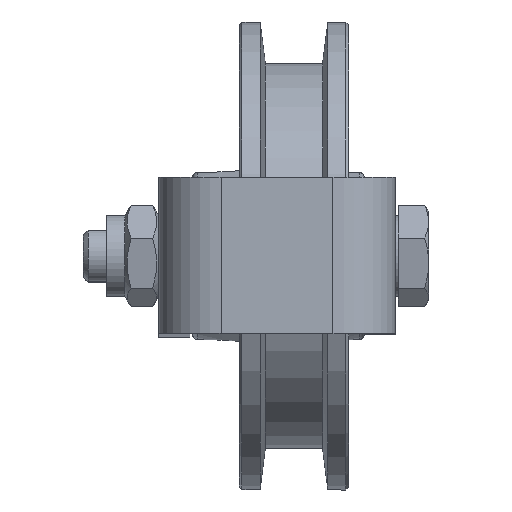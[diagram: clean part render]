
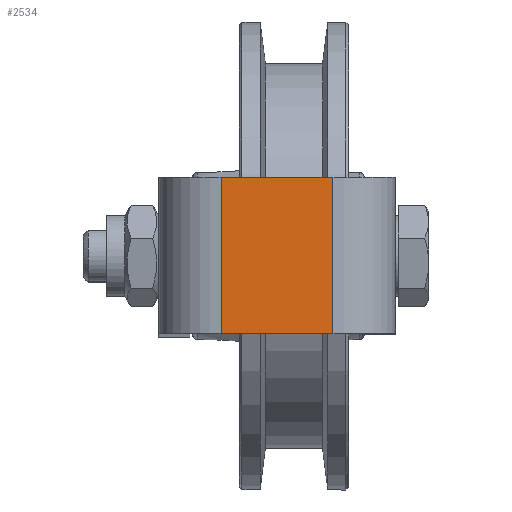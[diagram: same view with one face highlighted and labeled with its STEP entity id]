
A CAD part, top view. The second image highlights one B-rep face of the part: STEP entity #2534.
In plain terms, the highlighted planar face has unit normal (0, 0, 1) as drawn and (0, 1, 0) by its records, which use the part's own axes.
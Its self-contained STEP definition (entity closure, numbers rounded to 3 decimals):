
#295=PLANE('',#2838);
#373=FACE_OUTER_BOUND('',#541,.T.);
#541=EDGE_LOOP('',(#1877,#1878,#1879,#1880));
#732=LINE('',#3848,#904);
#740=LINE('',#3869,#912);
#743=LINE('',#3876,#915);
#745=LINE('',#3879,#917);
#904=VECTOR('',#3153,10.);
#912=VECTOR('',#3179,10.);
#915=VECTOR('',#3186,10.);
#917=VECTOR('',#3190,10.);
#1188=VERTEX_POINT('',#3845);
#1189=VERTEX_POINT('',#3847);
#1193=VERTEX_POINT('',#3867);
#1195=VERTEX_POINT('',#3875);
#1434=EDGE_CURVE('',#1189,#1188,#732,.T.);
#1445=EDGE_CURVE('',#1193,#1188,#740,.T.);
#1448=EDGE_CURVE('',#1189,#1195,#743,.T.);
#1450=EDGE_CURVE('',#1193,#1195,#745,.T.);
#1877=ORIENTED_EDGE('',*,*,#1434,.T.);
#1878=ORIENTED_EDGE('',*,*,#1445,.F.);
#1879=ORIENTED_EDGE('',*,*,#1450,.T.);
#1880=ORIENTED_EDGE('',*,*,#1448,.F.);
#2534=ADVANCED_FACE('',(#373),#295,.F.);
#2838=AXIS2_PLACEMENT_3D('',#3888,#3204,#3205);
#3153=DIRECTION('',(1.,0.,0.));
#3179=DIRECTION('',(0.,0.,1.));
#3186=DIRECTION('',(0.,0.,-1.));
#3190=DIRECTION('',(-1.,0.,0.));
#3204=DIRECTION('center_axis',(0.,-1.,0.));
#3205=DIRECTION('ref_axis',(1.,0.,0.));
#3845=CARTESIAN_POINT('',(15.,68.,33.5));
#3847=CARTESIAN_POINT('',(-15.,68.,33.5));
#3848=CARTESIAN_POINT('',(-7.5,68.,33.5));
#3867=CARTESIAN_POINT('',(15.,68.,12.));
#3869=CARTESIAN_POINT('',(15.,68.,12.));
#3875=CARTESIAN_POINT('',(-15.,68.,12.));
#3876=CARTESIAN_POINT('',(-15.,68.,-1.572));
#3879=CARTESIAN_POINT('',(0.,68.,12.));
#3888=CARTESIAN_POINT('Origin',(0.,68.,
21.964));
